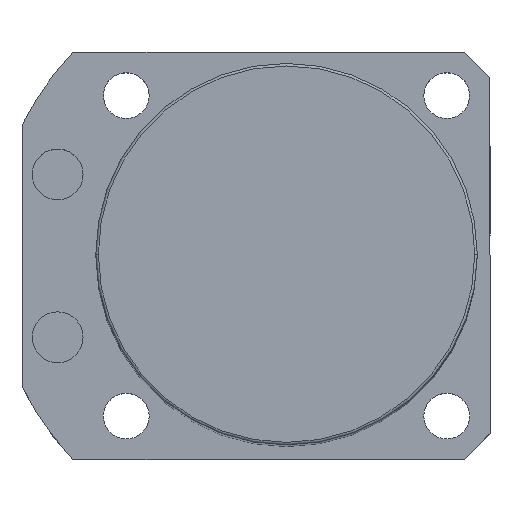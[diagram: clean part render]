
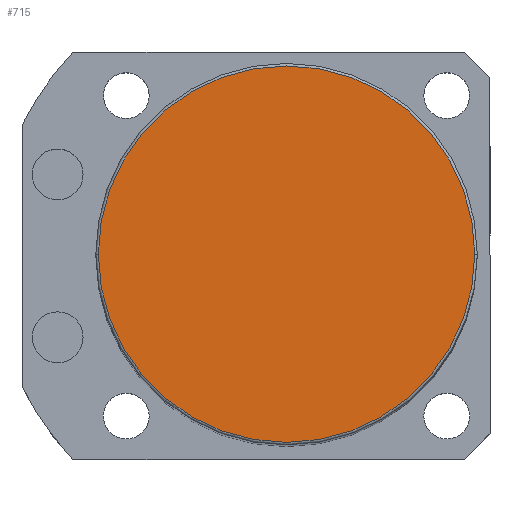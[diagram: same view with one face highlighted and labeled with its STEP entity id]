
A CAD part, top view. The second image highlights one B-rep face of the part: STEP entity #715.
In plain terms, the highlighted planar face has unit normal (0, 0, 1).
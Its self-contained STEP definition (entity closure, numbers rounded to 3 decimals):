
#24 = CARTESIAN_POINT ( 'NONE',  ( 0., 0., 210.5 ) ) ;
#48 = DIRECTION ( 'NONE',  ( 0., 0., 1. ) ) ;
#211 = DIRECTION ( 'NONE',  ( 0., 0., 1. ) ) ;
#238 = CARTESIAN_POINT ( 'NONE',  ( 0., 0., 210.5 ) ) ;
#497 = CARTESIAN_POINT ( 'NONE',  ( 0., 0., 210.5 ) ) ;
#576 = VERTEX_POINT ( 'NONE', #2041 ) ;
#613 = DIRECTION ( 'NONE',  ( 1., 0., 0. ) ) ;
#699 = AXIS2_PLACEMENT_3D ( 'NONE', #497, #1233, #701 ) ;
#701 = DIRECTION ( 'NONE',  ( 1., 0., 0. ) ) ;
#715 = ADVANCED_FACE ( 'NONE', ( #1867 ), #1708, .T. ) ;
#730 = ORIENTED_EDGE ( 'NONE', *, *, #836, .T. ) ;
#836 = EDGE_CURVE ( 'NONE', #576, #1887, #861, .T. ) ;
#861 = CIRCLE ( 'NONE', #699, 37. ) ;
#1184 = AXIS2_PLACEMENT_3D ( 'NONE', #238, #48, #2121 ) ;
#1233 = DIRECTION ( 'NONE',  ( 0., 0., 1. ) ) ;
#1281 = AXIS2_PLACEMENT_3D ( 'NONE', #24, #211, #613 ) ;
#1331 = CIRCLE ( 'NONE', #1281, 37. ) ;
#1334 = EDGE_CURVE ( 'NONE', #1887, #576, #1331, .T. ) ;
#1659 = EDGE_LOOP ( 'NONE', ( #730, #2034 ) ) ;
#1708 = PLANE ( 'NONE',  #1184 ) ;
#1790 = CARTESIAN_POINT ( 'NONE',  ( -37., 0., 210.5 ) ) ;
#1867 = FACE_OUTER_BOUND ( 'NONE', #1659, .T. ) ;
#1887 = VERTEX_POINT ( 'NONE', #1790 ) ;
#2034 = ORIENTED_EDGE ( 'NONE', *, *, #1334, .T. ) ;
#2041 = CARTESIAN_POINT ( 'NONE',  ( 37., 0., 210.5 ) ) ;
#2121 = DIRECTION ( 'NONE',  ( 1., 0., 0. ) ) ;
